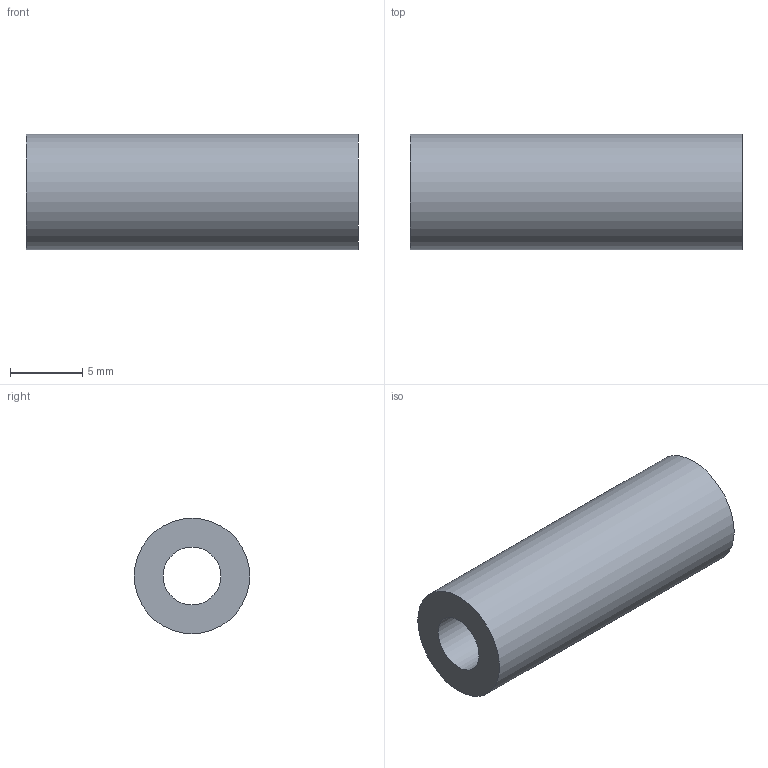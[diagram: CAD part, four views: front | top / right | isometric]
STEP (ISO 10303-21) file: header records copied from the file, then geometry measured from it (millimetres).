
FILE_DESCRIPTION(/* description */ ('Unknown'),/* implementation_level */ '2;1');
FILE_NAME(/* name */ 'LM4LUU',/* time_stamp */ '2025-02-03T14:47:23+08:00',/* author */ ('Unknown'),/* organization */ ('Unknown'),/* preprocessor_version */ 'ST-DEVELOPER v18.102',/* originating_system */ 'Solid Edge',/* authorisation */ 'Unknown');
FILE_SCHEMA (('AUTOMOTIVE_DESIGN {1 0 10303 214 3 1 1}'));
Length unit declared in the file: millimetre
Products named in the file (1): LM4LUU
Bounding box: 23 x 8 x 8 mm (x, y, z)
Volume: 867.1 mm3; surface area: 942.5 mm2
Topology: 1 solids, 1 shells, 4 faces, 6 edges, 4 vertices
Faces by surface type: cylinder 2, plane 2
Full cylindrical faces by diameter (mm): 4 x1, 8 x1
Entity records: 118 total; most frequent: DIRECTION 18, CARTESIAN_POINT 13, AXIS2_PLACEMENT_3D 9, ORIENTED_EDGE 8, EDGE_LOOP 8, FACE_BOUND 8, EDGE_CURVE 4, VERTEX_POINT 4
